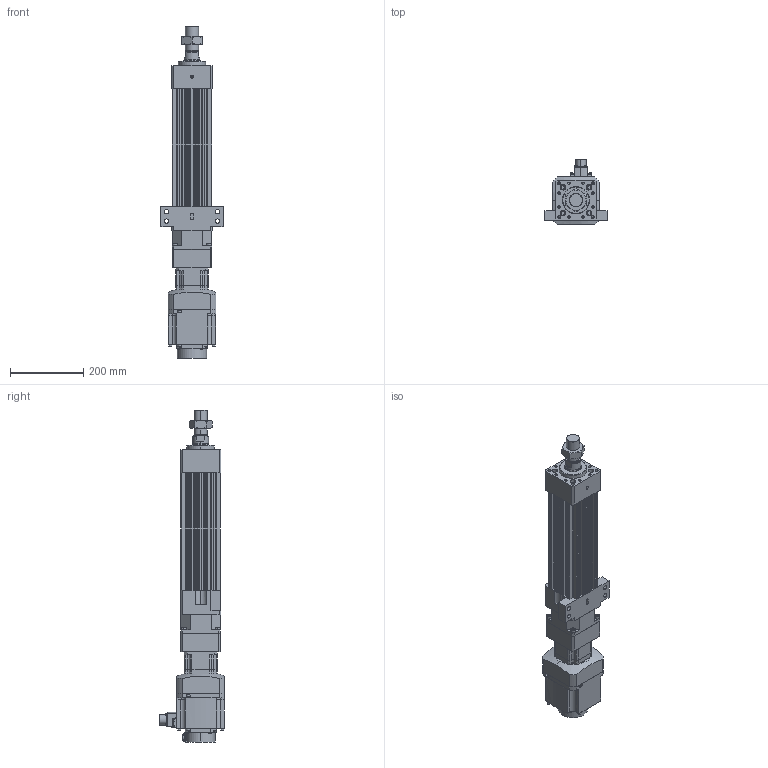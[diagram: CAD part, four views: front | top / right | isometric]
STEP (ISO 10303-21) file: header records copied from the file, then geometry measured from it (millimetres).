
FILE_DESCRIPTION (( 'STEP AP203' ), '1' );
FILE_NAME ('HES110NS(HS)-S150-W010G00-M-FFC.STEP', '2023-01-27T06:19:31', ( 'tms' ), ( '' ), 'SwSTEP 2.0', 'SolidWorks 2013', '' );
FILE_SCHEMA (( 'CONFIG_CONTROL_DESIGN' ));
Length unit declared in the file: millimetre
Products named in the file (8): HG-SR102; AB0901; HES110 ROD M ST150; M36X1.5P; HES110-S150-G090-FFC; AB090-003[HG-SR102B]; P0401301004; HES110NS(HS)-S150-W010G00-M-FFC
Assembly tree (7 placements, depth 3):
  HES110NS(HS)-S150-W010G00-M-FFC
    HES110-S150-G090-FFC
    HES110 ROD M ST150
    M36X1.5P
    AB090-003[HG-SR102B]
      AB0901
      P0401301004
    HG-SR102
Bounding box: 170 x 177.49 x 908.5 mm (x, y, z)
Volume: 5951393.5 mm3; surface area: 768390.5 mm2
Topology: 4 solids, 15 shells, 1217 faces, 3075 edges, 1984 vertices
Faces by surface type: plane 556, cylinder 547, cone 102, bspline 8, torus 4
Entity records: 38420 total; most frequent: CARTESIAN_POINT 7442, DIRECTION 6626, ORIENTED_EDGE 6054, EDGE_CURVE 3037, AXIS2_PLACEMENT_3D 2439, VERTEX_POINT 1984, LINE 1748, VECTOR 1748
